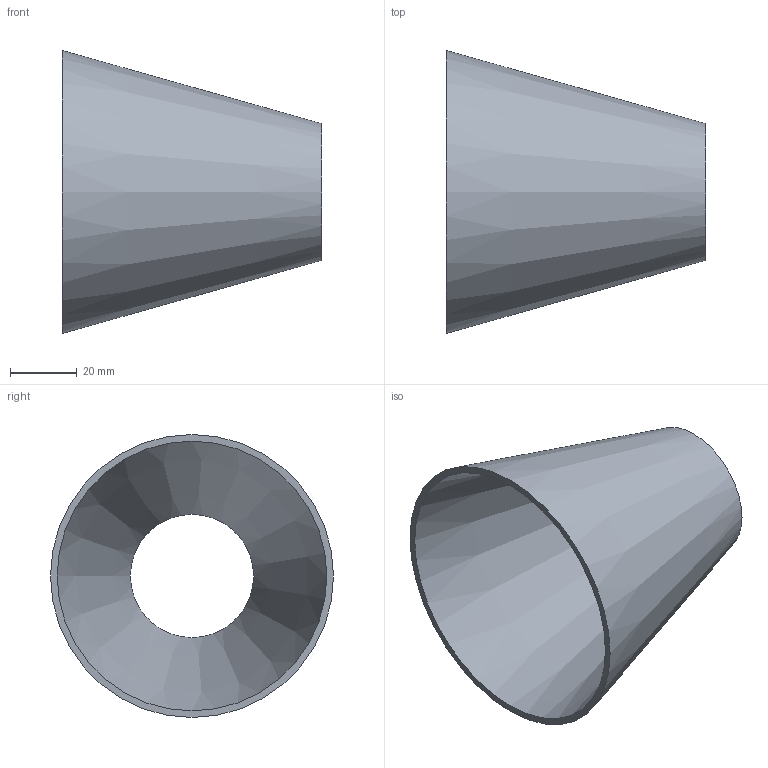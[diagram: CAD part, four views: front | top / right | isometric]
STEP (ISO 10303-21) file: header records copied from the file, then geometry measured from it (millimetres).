
FILE_DESCRIPTION(('FreeCAD Model'),'2;1');
FILE_NAME( '/home/martin/Documents/proyect/accesorios/stp/red-con_DN80-40.step', '2017-12-31T12:23:32',('Author'),(''), 'Open CASCADE STEP processor 6.8','FreeCAD','Unknown');
FILE_SCHEMA(('AUTOMOTIVE_DESIGN_CC2 { 1 2 10303 214 -1 1 5 4 }'));
Length unit declared in the file: millimetre
Products named in the file (1): red-con_DN80-40
Bounding box: 78 x 85 x 85 mm (x, y, z)
Volume: 29895.4 mm3; surface area: 31828.3 mm2
Topology: 1 solids, 1 shells, 4 faces, 6 edges, 4 vertices
Faces by surface type: cone 2, plane 2
Entity records: 191 total; most frequent: CARTESIAN_POINT 33, DIRECTION 26, ORIENTED_EDGE 12, PCURVE 12, DEFINITIONAL_REPRESENTATION 12, AXIS2_PLACEMENT_3D 9, CIRCLE 8, FACE_BOUND 6
